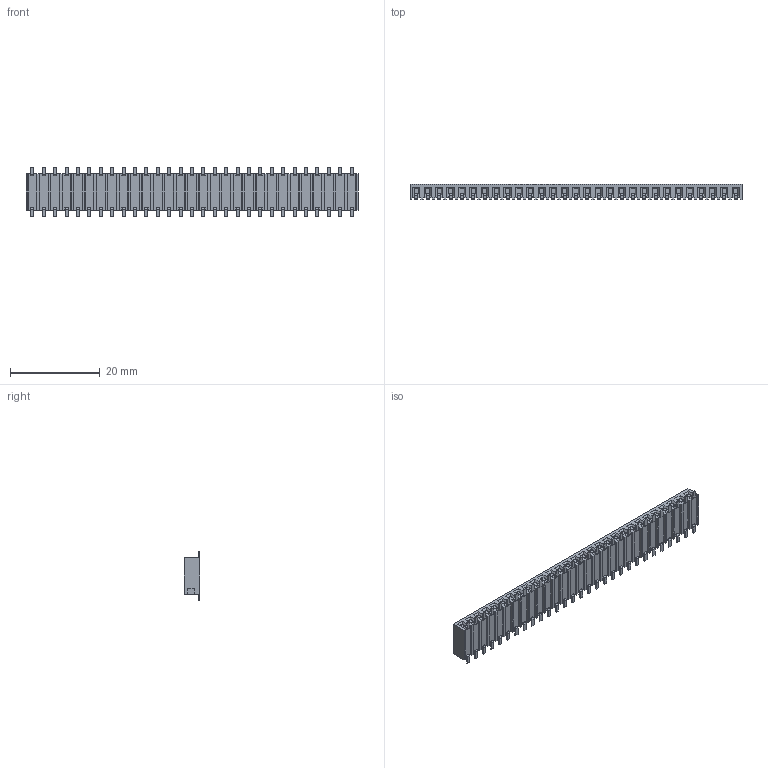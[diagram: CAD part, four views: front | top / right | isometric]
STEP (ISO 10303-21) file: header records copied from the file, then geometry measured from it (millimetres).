
FILE_DESCRIPTION (( 'STEP AP203' ), '1' );
FILE_NAME ('PM254-1-29-SE-8.1-XX(L11.1) (2.54单排 双侧贴片 排母 塑高8.1-HCTL).STEP', '2026-04-18T10:09:02', ( '' ), ( '' ), 'SwSTEP 2.0', 'SolidWorks 2025', '' );
FILE_SCHEMA (( 'CONFIG_CONTROL_DESIGN' ));
Length unit declared in the file: millimetre
Products named in the file (1): PM254-1-29-SE-8.1-XX(L11.1) (2.54单排 双侧贴片 排母 塑高8.1-HCTL)
Bounding box: 73.96 x 3.4 x 11.1 mm (x, y, z)
Volume: 1720.7 mm3; surface area: 2480.8 mm2
Topology: 1 solids, 1 shells, 1485 faces, 4159 edges, 2676 vertices
Faces by surface type: plane 1311, cylinder 174
Entity records: 46778 total; most frequent: CARTESIAN_POINT 8321, ORIENTED_EDGE 8318, DIRECTION 7479, EDGE_CURVE 4159, VECTOR 3811, LINE 3811, VERTEX_POINT 2676, AXIS2_PLACEMENT_3D 1834
